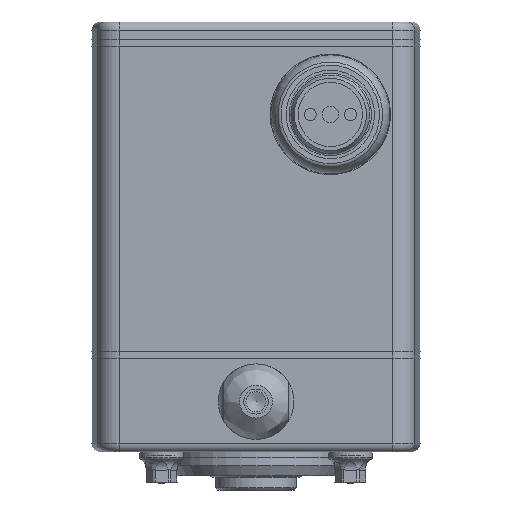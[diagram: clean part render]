
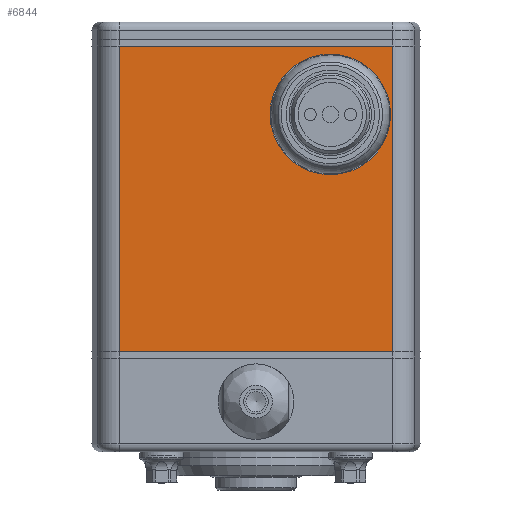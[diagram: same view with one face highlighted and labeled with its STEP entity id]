
A CAD part, left-side view. The second image highlights one B-rep face of the part: STEP entity #6844.
In plain terms, the highlighted planar face has unit normal (-1, 0, 0).
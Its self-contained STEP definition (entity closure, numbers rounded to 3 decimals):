
#302=CIRCLE('',#7340,8.);
#303=CIRCLE('',#7341,8.);
#707=FACE_BOUND('',#1334,.T.);
#952=FACE_OUTER_BOUND('',#1333,.T.);
#1333=EDGE_LOOP('',(#5408,#5409,#5410,#5411));
#1334=EDGE_LOOP('',(#5412,#5413));
#1849=LINE('',#12197,#2272);
#1850=LINE('',#12200,#2273);
#1851=LINE('',#12202,#2274);
#1852=LINE('',#12203,#2275);
#2272=VECTOR('',#8495,10.);
#2273=VECTOR('',#8498,10.);
#2274=VECTOR('',#8499,10.);
#2275=VECTOR('',#8500,10.);
#2972=VERTEX_POINT('',#12167);
#2973=VERTEX_POINT('',#12168);
#2982=VERTEX_POINT('',#12193);
#2983=VERTEX_POINT('',#12195);
#2984=VERTEX_POINT('',#12199);
#2985=VERTEX_POINT('',#12201);
#3852=EDGE_CURVE('',#2972,#2973,#302,.T.);
#3853=EDGE_CURVE('',#2973,#2972,#303,.T.);
#3866=EDGE_CURVE('',#2982,#2983,#1849,.T.);
#3867=EDGE_CURVE('',#2984,#2982,#1850,.T.);
#3868=EDGE_CURVE('',#2985,#2983,#1851,.T.);
#3869=EDGE_CURVE('',#2984,#2985,#1852,.T.);
#5408=ORIENTED_EDGE('',*,*,#3867,.T.);
#5409=ORIENTED_EDGE('',*,*,#3866,.T.);
#5410=ORIENTED_EDGE('',*,*,#3868,.F.);
#5411=ORIENTED_EDGE('',*,*,#3869,.F.);
#5412=ORIENTED_EDGE('',*,*,#3852,.T.);
#5413=ORIENTED_EDGE('',*,*,#3853,.T.);
#6458=PLANE('',#7354);
#6844=ADVANCED_FACE('',(#952,#707),#6458,.T.);
#7340=AXIS2_PLACEMENT_3D('',#12169,#8463,#8464);
#7341=AXIS2_PLACEMENT_3D('',#12170,#8465,#8466);
#7354=AXIS2_PLACEMENT_3D('',#12198,#8496,#8497);
#8463=DIRECTION('center_axis',(1.,0.,0.));
#8464=DIRECTION('ref_axis',(0.,0.,1.));
#8465=DIRECTION('center_axis',(1.,0.,0.));
#8466=DIRECTION('ref_axis',(0.,0.,1.));
#8495=DIRECTION('',(0.,0.,-1.));
#8496=DIRECTION('center_axis',(-1.,0.,0.));
#8497=DIRECTION('ref_axis',(0.,1.,0.));
#8498=DIRECTION('',(0.,1.,0.));
#8499=DIRECTION('',(0.,1.,0.));
#8500=DIRECTION('',(0.,0.,-1.));
#12167=CARTESIAN_POINT('',(-44.5,-18.5,-9.));
#12168=CARTESIAN_POINT('',(-44.5,-18.5,-25.));
#12169=CARTESIAN_POINT('Origin',(-44.5,-18.5,-17.));
#12170=CARTESIAN_POINT('Origin',(-44.5,-18.5,-17.));
#12193=CARTESIAN_POINT('',(-44.5,34.,0.));
#12195=CARTESIAN_POINT('',(-44.5,34.,-76.));
#12197=CARTESIAN_POINT('',(-44.5,34.,0.));
#12198=CARTESIAN_POINT('Origin',(-44.5,-34.,0.));
#12199=CARTESIAN_POINT('',(-44.5,-34.,0.));
#12200=CARTESIAN_POINT('',(-44.5,-34.,0.));
#12201=CARTESIAN_POINT('',(-44.5,-34.,-76.));
#12202=CARTESIAN_POINT('',(-44.5,-34.,-76.));
#12203=CARTESIAN_POINT('',(-44.5,-34.,0.));
